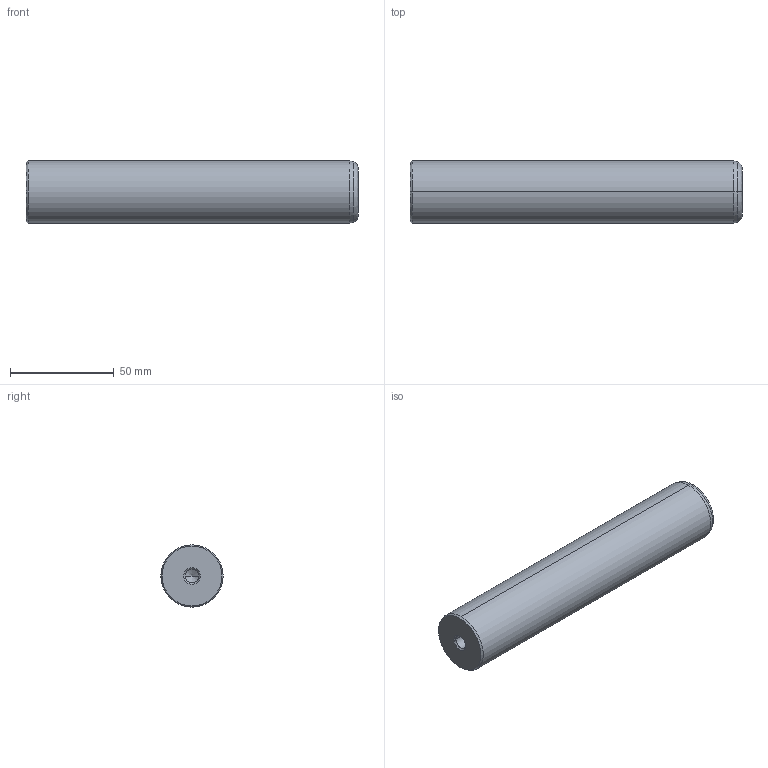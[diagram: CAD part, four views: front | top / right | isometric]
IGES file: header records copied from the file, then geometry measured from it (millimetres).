
Start section: START RECORD GO HERE.
Global section: file name: 720-30x160.igs; native system: DASSAULT SYSTEMES CATIA V5 R20 - www.3ds.com; preprocessor: CATIA Version 5 Release 20 ; author: Utente; organization: NB04-ASUS; date: 20210101.133331; units: millimetre
Bounding box: 160 x 30 x 30 mm (x, y, z)
Surface area: 17290.4 mm2 (no closed solid volume)
Topology: 0 solids, 0 shells, 22 faces, 108 edges, 104 vertices
Faces by surface type: revolution 20, plane 2
